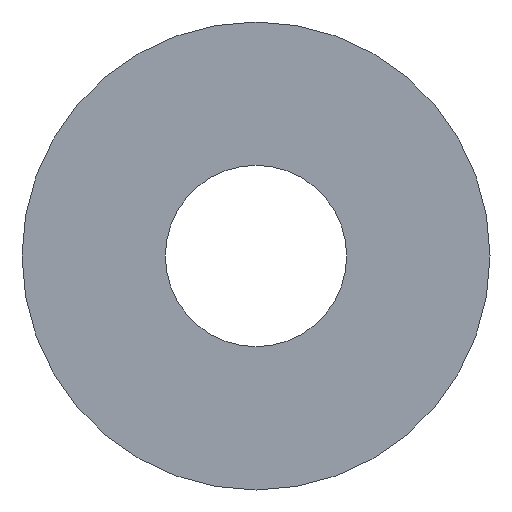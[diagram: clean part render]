
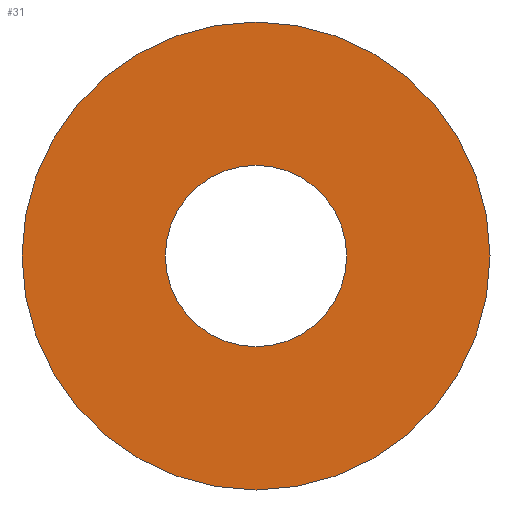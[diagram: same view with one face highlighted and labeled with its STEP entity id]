
A CAD part, front view. The second image highlights one B-rep face of the part: STEP entity #31.
In plain terms, the highlighted planar face has unit normal (0, -1, 0).
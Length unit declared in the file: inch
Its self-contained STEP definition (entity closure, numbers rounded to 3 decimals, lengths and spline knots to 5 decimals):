
#4 = CARTESIAN_POINT ( 'NONE',  ( 0., 0., 0. ) ) ;
#8 = VERTEX_POINT ( 'NONE', #267 ) ;
#15 = ORIENTED_EDGE ( 'NONE', *, *, #201, .F. ) ;
#22 = AXIS2_PLACEMENT_3D ( 'NONE', #233, #234, #209 ) ;
#31 = ADVANCED_FACE ( 'NONE', ( #34, #121 ), #271, .F. ) ;
#32 = EDGE_LOOP ( 'NONE', ( #15, #158 ) ) ;
#34 = FACE_OUTER_BOUND ( 'NONE', #32, .T. ) ;
#36 = CARTESIAN_POINT ( 'NONE',  ( 0., 0., 0.0775 ) ) ;
#71 = EDGE_CURVE ( 'NONE', #218, #115, #107, .T. ) ;
#79 = DIRECTION ( 'NONE',  ( 0., 0., 1. ) ) ;
#93 = CIRCLE ( 'NONE', #110, 0.0775 ) ;
#96 = CARTESIAN_POINT ( 'NONE',  ( 0., 0., 0. ) ) ;
#107 = CIRCLE ( 'NONE', #22, 0.0775 ) ;
#109 = CIRCLE ( 'NONE', #208, 0.2 ) ;
#110 = AXIS2_PLACEMENT_3D ( 'NONE', #4, #164, #79 ) ;
#112 = EDGE_CURVE ( 'NONE', #115, #218, #93, .T. ) ;
#115 = VERTEX_POINT ( 'NONE', #189 ) ;
#116 = DIRECTION ( 'NONE',  ( 0., 1., 0. ) ) ;
#117 = DIRECTION ( 'NONE',  ( 0., 0., 1. ) ) ;
#121 = FACE_BOUND ( 'NONE', #165, .T. ) ;
#133 = VERTEX_POINT ( 'NONE', #230 ) ;
#158 = ORIENTED_EDGE ( 'NONE', *, *, #214, .F. ) ;
#159 = DIRECTION ( 'NONE',  ( 0., 1., 0. ) ) ;
#162 = DIRECTION ( 'NONE',  ( 0., 0., 1. ) ) ;
#164 = DIRECTION ( 'NONE',  ( 0., 1., 0. ) ) ;
#165 = EDGE_LOOP ( 'NONE', ( #243, #197 ) ) ;
#172 = CIRCLE ( 'NONE', #232, 0.2 ) ;
#173 = DIRECTION ( 'NONE',  ( 0., 0., 1. ) ) ;
#189 = CARTESIAN_POINT ( 'NONE',  ( 0., 0., -0.0775 ) ) ;
#197 = ORIENTED_EDGE ( 'NONE', *, *, #71, .T. ) ;
#200 = AXIS2_PLACEMENT_3D ( 'NONE', #221, #240, #117 ) ;
#201 = EDGE_CURVE ( 'NONE', #8, #133, #172, .T. ) ;
#208 = AXIS2_PLACEMENT_3D ( 'NONE', #96, #159, #173 ) ;
#209 = DIRECTION ( 'NONE',  ( 0., 0., 1. ) ) ;
#214 = EDGE_CURVE ( 'NONE', #133, #8, #109, .T. ) ;
#218 = VERTEX_POINT ( 'NONE', #36 ) ;
#221 = CARTESIAN_POINT ( 'NONE',  ( 0., 0., 0. ) ) ;
#230 = CARTESIAN_POINT ( 'NONE',  ( 0., 0., 0.2 ) ) ;
#232 = AXIS2_PLACEMENT_3D ( 'NONE', #268, #116, #162 ) ;
#233 = CARTESIAN_POINT ( 'NONE',  ( 0., 0., 0. ) ) ;
#234 = DIRECTION ( 'NONE',  ( 0., 1., 0. ) ) ;
#240 = DIRECTION ( 'NONE',  ( 0., 1., 0. ) ) ;
#243 = ORIENTED_EDGE ( 'NONE', *, *, #112, .T. ) ;
#267 = CARTESIAN_POINT ( 'NONE',  ( 0., 0., -0.2 ) ) ;
#268 = CARTESIAN_POINT ( 'NONE',  ( 0., 0., 0. ) ) ;
#271 = PLANE ( 'NONE',  #200 ) ;
